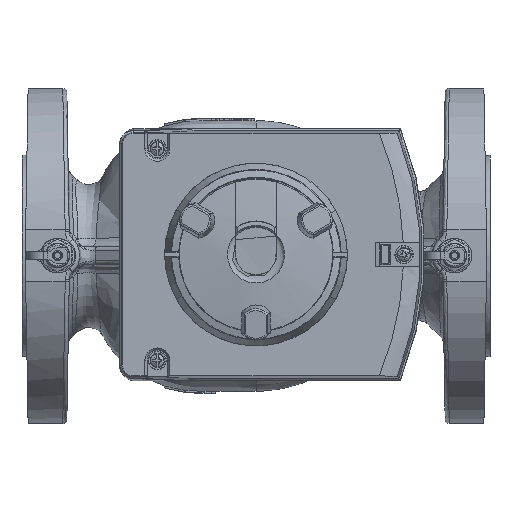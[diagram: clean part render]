
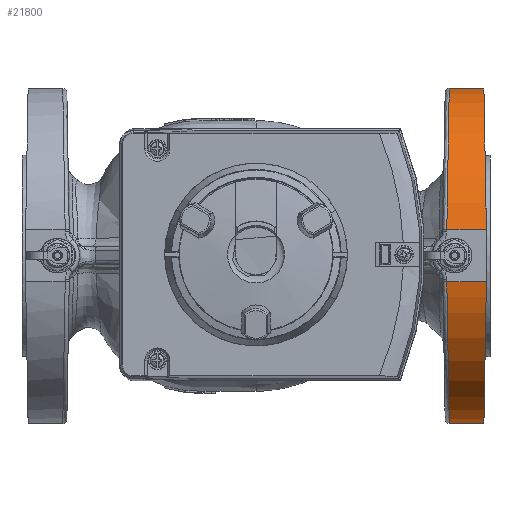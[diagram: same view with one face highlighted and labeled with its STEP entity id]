
A CAD part, top view. The second image highlights one B-rep face of the part: STEP entity #21800.
In plain terms, the highlighted cylindrical face has radius 82.5 mm (diameter 165 mm), a partial arc.
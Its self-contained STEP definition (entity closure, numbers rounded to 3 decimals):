
#197=CARTESIAN_POINT('',(113.217,-12.806,81.5));
#198=VERTEX_POINT('',#197);
#205=CARTESIAN_POINT('',(113.44,0.,-82.5));
#206=VERTEX_POINT('',#205);
#207=CARTESIAN_POINT('',(113.44,0.0,0.0));
#208=DIRECTION('',(-1.,0.017,0.0));
#209=DIRECTION('',(0.017,1.,0.0));
#210=AXIS2_PLACEMENT_3D('',#207,#208,#209);
#211=ELLIPSE('',#210,82.513,82.5);
#212=EDGE_CURVE('',#206,#198,#211,.T.);
#228=CARTESIAN_POINT('',(113.217,12.806,81.5));
#229=VERTEX_POINT('',#228);
#245=CARTESIAN_POINT('',(113.44,0.0,0.0));
#246=DIRECTION('',(-1.,-0.017,0.0));
#247=DIRECTION('',(-0.017,1.,0.0));
#248=AXIS2_PLACEMENT_3D('',#245,#246,#247);
#249=ELLIPSE('',#248,82.513,82.5);
#250=EDGE_CURVE('',#229,#206,#249,.T.);
#1381=CARTESIAN_POINT('',(93.784,12.806,81.5));
#1382=VERTEX_POINT('',#1381);
#1383=CARTESIAN_POINT('',(93.784,12.806,81.5));
#1384=DIRECTION('',(1.0,0.0,0.0));
#1385=VECTOR('',#1384,19.433);
#1386=LINE('',#1383,#1385);
#1387=EDGE_CURVE('',#1382,#229,#1386,.T.);
#1424=CARTESIAN_POINT('',(93.784,-12.806,81.5));
#1425=VERTEX_POINT('',#1424);
#1432=CARTESIAN_POINT('',(113.217,-12.806,81.5));
#1433=DIRECTION('',(-1.0,0.0,0.0));
#1434=VECTOR('',#1433,19.433);
#1435=LINE('',#1432,#1434);
#1436=EDGE_CURVE('',#198,#1425,#1435,.T.);
#15411=CARTESIAN_POINT('',(93.56,0.,-82.5));
#15412=VERTEX_POINT('',#15411);
#15432=CARTESIAN_POINT('',(93.778,-12.806,81.5));
#15433=VERTEX_POINT('',#15432);
#15434=CARTESIAN_POINT('',(93.56,0.0,0.0));
#15435=DIRECTION('',(-1.,-0.017,0.0));
#15436=DIRECTION('',(0.017,-1.,0.0));
#15437=AXIS2_PLACEMENT_3D('',#15434,#15435,#15436);
#15438=ELLIPSE('',#15437,82.512,82.5);
#15439=EDGE_CURVE('',#15412,#15433,#15438,.T.);
#21740=CARTESIAN_POINT('',(93.778,12.806,81.5));
#21741=VERTEX_POINT('',#21740);
#21742=CARTESIAN_POINT('',(93.56,0.0,0.0));
#21743=DIRECTION('',(-1.,0.017,0.0));
#21744=DIRECTION('',(0.017,1.,0.0));
#21745=AXIS2_PLACEMENT_3D('',#21742,#21743,#21744);
#21746=ELLIPSE('',#21745,82.512,82.5);
#21747=EDGE_CURVE('',#21741,#15412,#21746,.T.);
#21773=CARTESIAN_POINT('',(93.0,0.0,0.0));
#21774=DIRECTION('',(-1.0,0.0,0.0));
#21775=DIRECTION('',(0.0,0.0,1.0));
#21776=AXIS2_PLACEMENT_3D('',#21773,#21774,#21775);
#21777=CYLINDRICAL_SURFACE('',#21776,82.5);
#21778=ORIENTED_EDGE('',*,*,#15439,.F.);
#21779=ORIENTED_EDGE('',*,*,#21747,.F.);
#21780=CARTESIAN_POINT('',(93.784,12.806,81.5));
#21781=CARTESIAN_POINT('',(93.782,12.806,81.5));
#21782=CARTESIAN_POINT('',(93.78,12.806,81.5));
#21783=CARTESIAN_POINT('',(93.778,12.806,81.5));
#21784=B_SPLINE_CURVE_WITH_KNOTS('',3,(#21780,#21781,#21782,#21783),.UNSPECIFIED.,.F.,.U.,(4,4),(1.618,1.619),.UNSPECIFIED.);
#21785=EDGE_CURVE('',#1382,#21741,#21784,.T.);
#21786=ORIENTED_EDGE('',*,*,#21785,.F.);
#21787=ORIENTED_EDGE('',*,*,#1387,.T.);
#21788=ORIENTED_EDGE('',*,*,#250,.T.);
#21789=ORIENTED_EDGE('',*,*,#212,.T.);
#21790=ORIENTED_EDGE('',*,*,#1436,.T.);
#21791=CARTESIAN_POINT('',(93.778,-12.806,81.5));
#21792=CARTESIAN_POINT('',(93.78,-12.806,81.5));
#21793=CARTESIAN_POINT('',(93.782,-12.806,81.5));
#21794=CARTESIAN_POINT('',(93.784,-12.806,81.5));
#21795=B_SPLINE_CURVE_WITH_KNOTS('',3,(#21791,#21792,#21793,#21794),.UNSPECIFIED.,.F.,.U.,(4,4),(1.617,1.617),.UNSPECIFIED.);
#21796=EDGE_CURVE('',#15433,#1425,#21795,.T.);
#21797=ORIENTED_EDGE('',*,*,#21796,.F.);
#21798=EDGE_LOOP('',(#21778,#21779,#21786,#21787,#21788,#21789,#21790,#21797));
#21799=FACE_OUTER_BOUND('',#21798,.T.);
#21800=ADVANCED_FACE('',(#21799),#21777,.T.);
